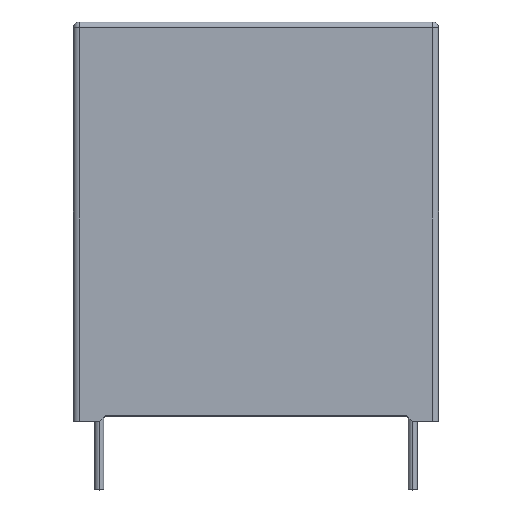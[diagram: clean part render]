
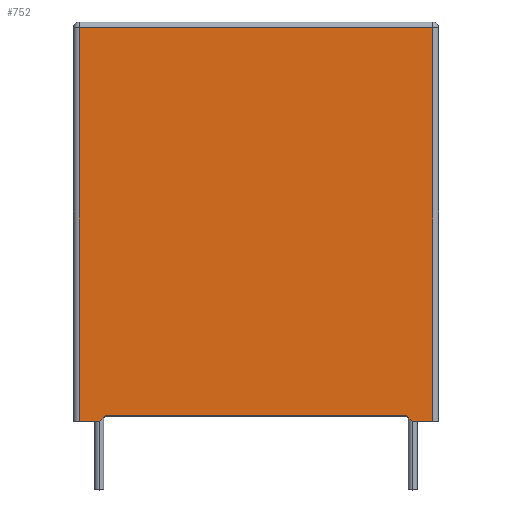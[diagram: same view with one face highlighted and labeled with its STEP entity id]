
A CAD part, top view. The second image highlights one B-rep face of the part: STEP entity #752.
In plain terms, the highlighted planar face has unit normal (0, 0, 1).
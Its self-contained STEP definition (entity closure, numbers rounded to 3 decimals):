
#5 = VECTOR ( 'NONE', #3163, 1000. ) ;
#40 = LINE ( 'NONE', #2224, #5 ) ;
#115 = CARTESIAN_POINT ( 'NONE',  ( -15.5, 0., 10.5 ) ) ;
#216 = FACE_OUTER_BOUND ( 'NONE', #2069, .T. ) ;
#274 = EDGE_CURVE ( 'NONE', #2459, #4015, #1036, .T. ) ;
#352 = LINE ( 'NONE', #3827, #3076 ) ;
#752 = ADVANCED_FACE ( 'NONE', ( #216 ), #1513, .F. ) ;
#808 = VECTOR ( 'NONE', #3308, 1000. ) ;
#862 = EDGE_CURVE ( 'NONE', #2459, #2970, #2985, .T. ) ;
#1018 = VECTOR ( 'NONE', #2461, 1000. ) ;
#1035 = CARTESIAN_POINT ( 'NONE',  ( -13.7, 0., 10.5 ) ) ;
#1036 = LINE ( 'NONE', #2475, #1018 ) ;
#1044 = LINE ( 'NONE', #1218, #1814 ) ;
#1058 = EDGE_CURVE ( 'NONE', #2970, #2726, #3574, .T. ) ;
#1061 = DIRECTION ( 'NONE',  ( -1., 0., 0. ) ) ;
#1066 = EDGE_CURVE ( 'NONE', #3278, #3011, #3616, .T. ) ;
#1072 = DIRECTION ( 'NONE',  ( 0., 0., -1. ) ) ;
#1074 = CARTESIAN_POINT ( 'NONE',  ( 15.5, 35., 10.5 ) ) ;
#1155 = CARTESIAN_POINT ( 'NONE',  ( -15.5, 34.5, 10.5 ) ) ;
#1218 = CARTESIAN_POINT ( 'NONE',  ( -15.5, 35., 10.5 ) ) ;
#1219 = CARTESIAN_POINT ( 'NONE',  ( -16., 35., 10.5 ) ) ;
#1366 = LINE ( 'NONE', #1035, #808 ) ;
#1443 = DIRECTION ( 'NONE',  ( 0., 1., 0. ) ) ;
#1513 = PLANE ( 'NONE',  #1853 ) ;
#1675 = EDGE_CURVE ( 'NONE', #2726, #2477, #352, .T. ) ;
#1814 = VECTOR ( 'NONE', #4286, 1000. ) ;
#1853 = AXIS2_PLACEMENT_3D ( 'NONE', #1219, #1072, #1061 ) ;
#1955 = CARTESIAN_POINT ( 'NONE',  ( 15.5, 0., 10.5 ) ) ;
#2043 = EDGE_CURVE ( 'NONE', #3347, #3011, #1366, .T. ) ;
#2069 = EDGE_LOOP ( 'NONE', ( #2275, #2325, #2632, #2772, #3660, #3831, #3937, #4062 ) ) ;
#2110 = DIRECTION ( 'NONE',  ( 1., 0., 0. ) ) ;
#2224 = CARTESIAN_POINT ( 'NONE',  ( -13.2, 0.5, 10.5 ) ) ;
#2275 = ORIENTED_EDGE ( 'NONE', *, *, #2685, .F. ) ;
#2325 = ORIENTED_EDGE ( 'NONE', *, *, #274, .F. ) ;
#2459 = VERTEX_POINT ( 'NONE', #3116 ) ;
#2461 = DIRECTION ( 'NONE',  ( -0.707, 0.707, 0. ) ) ;
#2475 = CARTESIAN_POINT ( 'NONE',  ( 13.2, 0.5, 10.5 ) ) ;
#2477 = VERTEX_POINT ( 'NONE', #1155 ) ;
#2600 = DIRECTION ( 'NONE',  ( 1., 0., 0. ) ) ;
#2632 = ORIENTED_EDGE ( 'NONE', *, *, #862, .T. ) ;
#2642 = CARTESIAN_POINT ( 'NONE',  ( -13.7, 0., 10.5 ) ) ;
#2685 = EDGE_CURVE ( 'NONE', #4015, #3347, #40, .T. ) ;
#2689 = DIRECTION ( 'NONE',  ( -1., 0., 0. ) ) ;
#2694 = CARTESIAN_POINT ( 'NONE',  ( -16., 0., 10.5 ) ) ;
#2726 = VERTEX_POINT ( 'NONE', #2892 ) ;
#2748 = VECTOR ( 'NONE', #2600, 1000. ) ;
#2772 = ORIENTED_EDGE ( 'NONE', *, *, #1058, .T. ) ;
#2892 = CARTESIAN_POINT ( 'NONE',  ( 15.5, 34.5, 10.5 ) ) ;
#2970 = VERTEX_POINT ( 'NONE', #1955 ) ;
#2985 = LINE ( 'NONE', #2694, #2748 ) ;
#3011 = VERTEX_POINT ( 'NONE', #2642 ) ;
#3076 = VECTOR ( 'NONE', #2689, 1000. ) ;
#3116 = CARTESIAN_POINT ( 'NONE',  ( 13.7, 0., 10.5 ) ) ;
#3163 = DIRECTION ( 'NONE',  ( -1., 0., 0. ) ) ;
#3278 = VERTEX_POINT ( 'NONE', #115 ) ;
#3282 = CARTESIAN_POINT ( 'NONE',  ( -13.2, 0.5, 10.5 ) ) ;
#3308 = DIRECTION ( 'NONE',  ( -0.707, -0.707, 0. ) ) ;
#3310 = VECTOR ( 'NONE', #2110, 1000. ) ;
#3347 = VERTEX_POINT ( 'NONE', #3282 ) ;
#3422 = CARTESIAN_POINT ( 'NONE',  ( 13.2, 0.5, 10.5 ) ) ;
#3516 = VECTOR ( 'NONE', #1443, 1000. ) ;
#3574 = LINE ( 'NONE', #1074, #3516 ) ;
#3616 = LINE ( 'NONE', #3892, #3310 ) ;
#3660 = ORIENTED_EDGE ( 'NONE', *, *, #1675, .T. ) ;
#3827 = CARTESIAN_POINT ( 'NONE',  ( -16., 34.5, 10.5 ) ) ;
#3831 = ORIENTED_EDGE ( 'NONE', *, *, #4199, .T. ) ;
#3892 = CARTESIAN_POINT ( 'NONE',  ( -16., 0., 10.5 ) ) ;
#3937 = ORIENTED_EDGE ( 'NONE', *, *, #1066, .T. ) ;
#4015 = VERTEX_POINT ( 'NONE', #3422 ) ;
#4062 = ORIENTED_EDGE ( 'NONE', *, *, #2043, .F. ) ;
#4199 = EDGE_CURVE ( 'NONE', #2477, #3278, #1044, .T. ) ;
#4286 = DIRECTION ( 'NONE',  ( 0., -1., 0. ) ) ;
